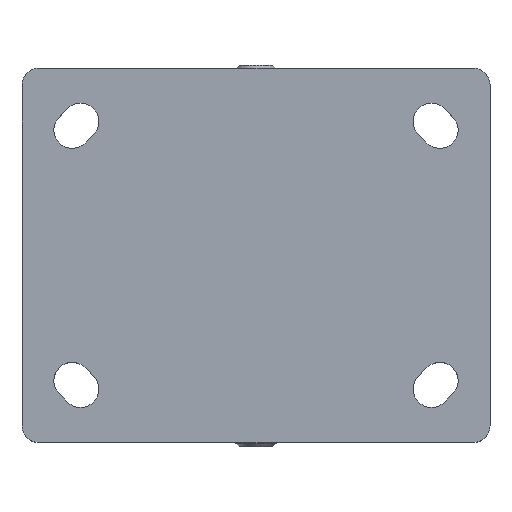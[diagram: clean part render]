
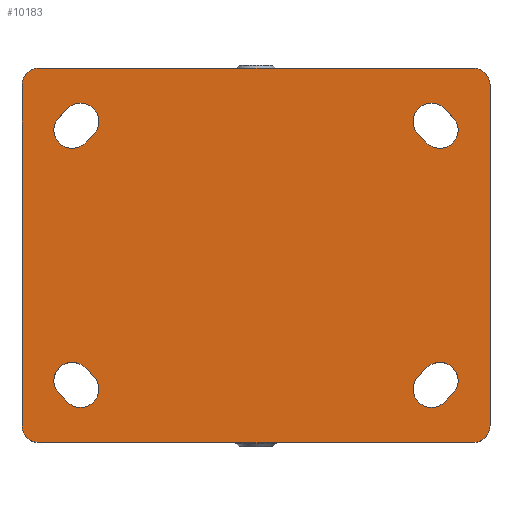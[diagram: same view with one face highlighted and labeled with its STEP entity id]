
A CAD part, top view. The second image highlights one B-rep face of the part: STEP entity #10183.
In plain terms, the highlighted planar face has unit normal (0, 0, 1).
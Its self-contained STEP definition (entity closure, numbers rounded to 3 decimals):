
#9964=CARTESIAN_POINT('',(89.481,129.489,12.0));
#9965=DIRECTION('',(0.0,0.0,1.0));
#9966=DIRECTION('',(1.0,0.0,0.0));
#9967=AXIS2_PLACEMENT_3D('',#9964,#9965,#9966);
#9968=PLANE('',#9967);
#9969=CARTESIAN_POINT('',(19.481,180.489,12.0));
#9970=VERTEX_POINT('',#9969);
#9971=CARTESIAN_POINT('',(24.481,185.489,12.0));
#9972=VERTEX_POINT('',#9971);
#9973=CARTESIAN_POINT('',(24.481,180.489,12.0));
#9974=DIRECTION('',(0.0,0.0,-1.));
#9975=DIRECTION('',(-0.707,0.707,0.0));
#9976=AXIS2_PLACEMENT_3D('',#9973,#9974,#9975);
#9977=CIRCLE('',#9976,5.);
#9978=EDGE_CURVE('',#9970,#9972,#9977,.T.);
#9979=ORIENTED_EDGE('',*,*,#9978,.F.);
#9980=CARTESIAN_POINT('',(19.481,78.489,12.0));
#9981=VERTEX_POINT('',#9980);
#9982=CARTESIAN_POINT('',(19.481,78.489,12.0));
#9983=DIRECTION('',(0.0,1.0,0.0));
#9984=VECTOR('',#9983,102.);
#9985=LINE('',#9982,#9984);
#9986=EDGE_CURVE('',#9981,#9970,#9985,.T.);
#9987=ORIENTED_EDGE('',*,*,#9986,.F.);
#9988=CARTESIAN_POINT('',(24.481,73.489,12.0));
#9989=VERTEX_POINT('',#9988);
#9990=CARTESIAN_POINT('',(24.481,78.489,12.0));
#9991=DIRECTION('',(0.0,0.0,-1.));
#9992=DIRECTION('',(-0.707,-0.707,0.0));
#9993=AXIS2_PLACEMENT_3D('',#9990,#9991,#9992);
#9994=CIRCLE('',#9993,5.);
#9995=EDGE_CURVE('',#9989,#9981,#9994,.T.);
#9996=ORIENTED_EDGE('',*,*,#9995,.F.);
#9997=CARTESIAN_POINT('',(154.481,73.489,12.0));
#9998=VERTEX_POINT('',#9997);
#9999=CARTESIAN_POINT('',(154.481,73.489,12.0));
#10000=DIRECTION('',(-1.0,0.0,0.0));
#10001=VECTOR('',#10000,130.);
#10002=LINE('',#9999,#10001);
#10003=EDGE_CURVE('',#9998,#9989,#10002,.T.);
#10004=ORIENTED_EDGE('',*,*,#10003,.F.);
#10005=CARTESIAN_POINT('',(159.481,78.489,12.0));
#10006=VERTEX_POINT('',#10005);
#10007=CARTESIAN_POINT('',(154.481,78.489,12.0));
#10008=DIRECTION('',(0.0,0.0,-1.));
#10009=DIRECTION('',(0.707,-0.707,0.0));
#10010=AXIS2_PLACEMENT_3D('',#10007,#10008,#10009);
#10011=CIRCLE('',#10010,5.);
#10012=EDGE_CURVE('',#10006,#9998,#10011,.T.);
#10013=ORIENTED_EDGE('',*,*,#10012,.F.);
#10014=CARTESIAN_POINT('',(159.481,180.489,12.0));
#10015=VERTEX_POINT('',#10014);
#10016=CARTESIAN_POINT('',(159.481,180.489,12.0));
#10017=DIRECTION('',(0.0,-1.0,0.0));
#10018=VECTOR('',#10017,102.0);
#10019=LINE('',#10016,#10018);
#10020=EDGE_CURVE('',#10015,#10006,#10019,.T.);
#10021=ORIENTED_EDGE('',*,*,#10020,.F.);
#10022=CARTESIAN_POINT('',(154.481,185.489,12.0));
#10023=VERTEX_POINT('',#10022);
#10024=CARTESIAN_POINT('',(154.481,180.489,12.0));
#10025=DIRECTION('',(0.0,0.0,-1.0));
#10026=DIRECTION('',(0.707,0.707,0.0));
#10027=AXIS2_PLACEMENT_3D('',#10024,#10025,#10026);
#10028=CIRCLE('',#10027,5.);
#10029=EDGE_CURVE('',#10023,#10015,#10028,.T.);
#10030=ORIENTED_EDGE('',*,*,#10029,.F.);
#10031=CARTESIAN_POINT('',(24.481,185.489,12.0));
#10032=DIRECTION('',(1.0,0.0,0.0));
#10033=VECTOR('',#10032,130.);
#10034=LINE('',#10031,#10033);
#10035=EDGE_CURVE('',#9972,#10023,#10034,.T.);
#10036=ORIENTED_EDGE('',*,*,#10035,.F.);
#10037=EDGE_LOOP('',(#9979,#9987,#9996,#10004,#10013,#10021,#10030,#10036));
#10038=FACE_OUTER_BOUND('',#10037,.T.);
#10039=CARTESIAN_POINT('',(145.87,85.6,12.0));
#10040=VERTEX_POINT('',#10039);
#10041=CARTESIAN_POINT('',(138.092,93.378,12.0));
#10042=VERTEX_POINT('',#10041);
#10043=CARTESIAN_POINT('',(141.981,89.489,12.0));
#10044=DIRECTION('',(0.0,0.0,-1.0));
#10045=DIRECTION('',(1.0,0.0,0.0));
#10046=AXIS2_PLACEMENT_3D('',#10043,#10044,#10045);
#10047=CIRCLE('',#10046,5.5);
#10048=EDGE_CURVE('',#10040,#10042,#10047,.T.);
#10049=ORIENTED_EDGE('',*,*,#10048,.T.);
#10050=CARTESIAN_POINT('',(140.592,95.878,12.0));
#10051=VERTEX_POINT('',#10050);
#10052=CARTESIAN_POINT('',(138.092,93.378,12.0));
#10053=DIRECTION('',(0.707,0.707,0.0));
#10054=VECTOR('',#10053,3.536);
#10055=LINE('',#10052,#10054);
#10056=EDGE_CURVE('',#10042,#10051,#10055,.T.);
#10057=ORIENTED_EDGE('',*,*,#10056,.T.);
#10058=CARTESIAN_POINT('',(148.37,88.1,12.0));
#10059=VERTEX_POINT('',#10058);
#10060=CARTESIAN_POINT('',(144.481,91.989,12.0));
#10061=DIRECTION('',(0.0,0.0,-1.0));
#10062=DIRECTION('',(1.0,0.0,0.0));
#10063=AXIS2_PLACEMENT_3D('',#10060,#10061,#10062);
#10064=CIRCLE('',#10063,5.5);
#10065=EDGE_CURVE('',#10051,#10059,#10064,.T.);
#10066=ORIENTED_EDGE('',*,*,#10065,.T.);
#10067=CARTESIAN_POINT('',(148.37,88.1,12.0));
#10068=DIRECTION('',(-0.707,-0.707,0.0));
#10069=VECTOR('',#10068,3.536);
#10070=LINE('',#10067,#10069);
#10071=EDGE_CURVE('',#10059,#10040,#10070,.T.);
#10072=ORIENTED_EDGE('',*,*,#10071,.T.);
#10073=EDGE_LOOP('',(#10049,#10057,#10066,#10072));
#10074=FACE_BOUND('',#10073,.T.);
#10075=CARTESIAN_POINT('',(40.87,165.6,12.0));
#10076=VERTEX_POINT('',#10075);
#10077=CARTESIAN_POINT('',(38.37,163.1,12.0));
#10078=VERTEX_POINT('',#10077);
#10079=CARTESIAN_POINT('',(40.87,165.6,12.0));
#10080=DIRECTION('',(-0.707,-0.707,0.0));
#10081=VECTOR('',#10080,3.536);
#10082=LINE('',#10079,#10081);
#10083=EDGE_CURVE('',#10076,#10078,#10082,.T.);
#10084=ORIENTED_EDGE('',*,*,#10083,.T.);
#10085=CARTESIAN_POINT('',(30.592,170.878,12.0));
#10086=VERTEX_POINT('',#10085);
#10087=CARTESIAN_POINT('',(34.481,166.989,12.0));
#10088=DIRECTION('',(0.0,0.0,-1.0));
#10089=DIRECTION('',(1.0,0.0,0.0));
#10090=AXIS2_PLACEMENT_3D('',#10087,#10088,#10089);
#10091=CIRCLE('',#10090,5.5);
#10092=EDGE_CURVE('',#10078,#10086,#10091,.T.);
#10093=ORIENTED_EDGE('',*,*,#10092,.T.);
#10094=CARTESIAN_POINT('',(33.092,173.378,12.0));
#10095=VERTEX_POINT('',#10094);
#10096=CARTESIAN_POINT('',(30.592,170.878,12.0));
#10097=DIRECTION('',(0.707,0.707,0.0));
#10098=VECTOR('',#10097,3.536);
#10099=LINE('',#10096,#10098);
#10100=EDGE_CURVE('',#10086,#10095,#10099,.T.);
#10101=ORIENTED_EDGE('',*,*,#10100,.T.);
#10102=CARTESIAN_POINT('',(36.981,169.489,12.0));
#10103=DIRECTION('',(0.0,0.0,-1.0));
#10104=DIRECTION('',(1.0,0.0,0.0));
#10105=AXIS2_PLACEMENT_3D('',#10102,#10103,#10104);
#10106=CIRCLE('',#10105,5.5);
#10107=EDGE_CURVE('',#10095,#10076,#10106,.T.);
#10108=ORIENTED_EDGE('',*,*,#10107,.T.);
#10109=EDGE_LOOP('',(#10084,#10093,#10101,#10108));
#10110=FACE_BOUND('',#10109,.T.);
#10111=CARTESIAN_POINT('',(30.592,88.1,12.0));
#10112=VERTEX_POINT('',#10111);
#10113=CARTESIAN_POINT('',(38.37,95.878,12.0));
#10114=VERTEX_POINT('',#10113);
#10115=CARTESIAN_POINT('',(34.481,91.989,12.0));
#10116=DIRECTION('',(0.0,0.0,-1.0));
#10117=DIRECTION('',(1.0,0.0,0.0));
#10118=AXIS2_PLACEMENT_3D('',#10115,#10116,#10117);
#10119=CIRCLE('',#10118,5.5);
#10120=EDGE_CURVE('',#10112,#10114,#10119,.T.);
#10121=ORIENTED_EDGE('',*,*,#10120,.T.);
#10122=CARTESIAN_POINT('',(40.87,93.378,12.0));
#10123=VERTEX_POINT('',#10122);
#10124=CARTESIAN_POINT('',(38.37,95.878,12.0));
#10125=DIRECTION('',(0.707,-0.707,0.0));
#10126=VECTOR('',#10125,3.536);
#10127=LINE('',#10124,#10126);
#10128=EDGE_CURVE('',#10114,#10123,#10127,.T.);
#10129=ORIENTED_EDGE('',*,*,#10128,.T.);
#10130=CARTESIAN_POINT('',(33.092,85.6,12.0));
#10131=VERTEX_POINT('',#10130);
#10132=CARTESIAN_POINT('',(36.981,89.489,12.0));
#10133=DIRECTION('',(0.0,0.0,-1.0));
#10134=DIRECTION('',(1.0,0.0,0.0));
#10135=AXIS2_PLACEMENT_3D('',#10132,#10133,#10134);
#10136=CIRCLE('',#10135,5.5);
#10137=EDGE_CURVE('',#10123,#10131,#10136,.T.);
#10138=ORIENTED_EDGE('',*,*,#10137,.T.);
#10139=CARTESIAN_POINT('',(33.092,85.6,12.0));
#10140=DIRECTION('',(-0.707,0.707,0.0));
#10141=VECTOR('',#10140,3.536);
#10142=LINE('',#10139,#10141);
#10143=EDGE_CURVE('',#10131,#10112,#10142,.T.);
#10144=ORIENTED_EDGE('',*,*,#10143,.T.);
#10145=EDGE_LOOP('',(#10121,#10129,#10138,#10144));
#10146=FACE_BOUND('',#10145,.T.);
#10147=CARTESIAN_POINT('',(148.37,170.878,12.0));
#10148=VERTEX_POINT('',#10147);
#10149=CARTESIAN_POINT('',(140.592,163.1,12.0));
#10150=VERTEX_POINT('',#10149);
#10151=CARTESIAN_POINT('',(144.481,166.989,12.0));
#10152=DIRECTION('',(0.0,0.0,-1.0));
#10153=DIRECTION('',(1.0,0.0,0.0));
#10154=AXIS2_PLACEMENT_3D('',#10151,#10152,#10153);
#10155=CIRCLE('',#10154,5.5);
#10156=EDGE_CURVE('',#10148,#10150,#10155,.T.);
#10157=ORIENTED_EDGE('',*,*,#10156,.T.);
#10158=CARTESIAN_POINT('',(138.092,165.6,12.0));
#10159=VERTEX_POINT('',#10158);
#10160=CARTESIAN_POINT('',(140.592,163.1,12.0));
#10161=DIRECTION('',(-0.707,0.707,0.0));
#10162=VECTOR('',#10161,3.536);
#10163=LINE('',#10160,#10162);
#10164=EDGE_CURVE('',#10150,#10159,#10163,.T.);
#10165=ORIENTED_EDGE('',*,*,#10164,.T.);
#10166=CARTESIAN_POINT('',(145.87,173.378,12.0));
#10167=VERTEX_POINT('',#10166);
#10168=CARTESIAN_POINT('',(141.981,169.489,12.0));
#10169=DIRECTION('',(0.0,0.0,-1.0));
#10170=DIRECTION('',(1.0,0.0,0.0));
#10171=AXIS2_PLACEMENT_3D('',#10168,#10169,#10170);
#10172=CIRCLE('',#10171,5.5);
#10173=EDGE_CURVE('',#10159,#10167,#10172,.T.);
#10174=ORIENTED_EDGE('',*,*,#10173,.T.);
#10175=CARTESIAN_POINT('',(145.87,173.378,12.0));
#10176=DIRECTION('',(0.707,-0.707,0.0));
#10177=VECTOR('',#10176,3.536);
#10178=LINE('',#10175,#10177);
#10179=EDGE_CURVE('',#10167,#10148,#10178,.T.);
#10180=ORIENTED_EDGE('',*,*,#10179,.T.);
#10181=EDGE_LOOP('',(#10157,#10165,#10174,#10180));
#10182=FACE_BOUND('',#10181,.T.);
#10183=ADVANCED_FACE('',(#10038,#10074,#10110,#10146,#10182),#9968,.T.);
